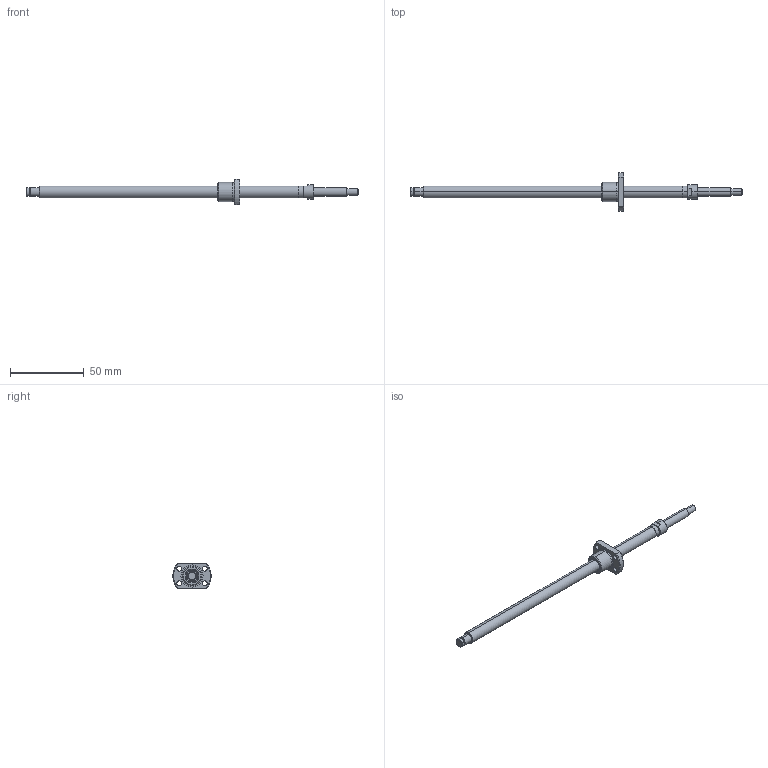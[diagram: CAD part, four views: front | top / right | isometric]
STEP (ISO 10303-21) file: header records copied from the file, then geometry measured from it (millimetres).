
FILE_DESCRIPTION (( 'STEP AP214' ), '1' );
FILE_NAME ('BS0801K-3D.STEP', '2014-03-05T15:09:31', ( '' ), ( '' ), 'SwSTEP 2.0', 'SolidWorks 2012', '' );
FILE_SCHEMA (( 'AUTOMOTIVE_DESIGN' ));
Length unit declared in the file: millimetre
Products named in the file (3): BS0801K-3D; BS0801KŽ²; BS0801Kナット
Assembly tree (2 placements, depth 2):
  BS0801K-3D
    BS0801KŽ²
    BS0801Kナット
Bounding box: 225 x 25.92 x 17 mm (x, y, z)
Volume: 19906.5 mm3; surface area: 11611.1 mm2
Topology: 3 solids, 3 shells, 80 faces, 176 edges, 112 vertices
Faces by surface type: cylinder 36, cone 22, plane 22
Entity records: 2381 total; most frequent: DIRECTION 432, CARTESIAN_POINT 409, ORIENTED_EDGE 352, AXIS2_PLACEMENT_3D 183, EDGE_CURVE 176, VERTEX_POINT 112, EDGE_LOOP 100, CIRCLE 98
